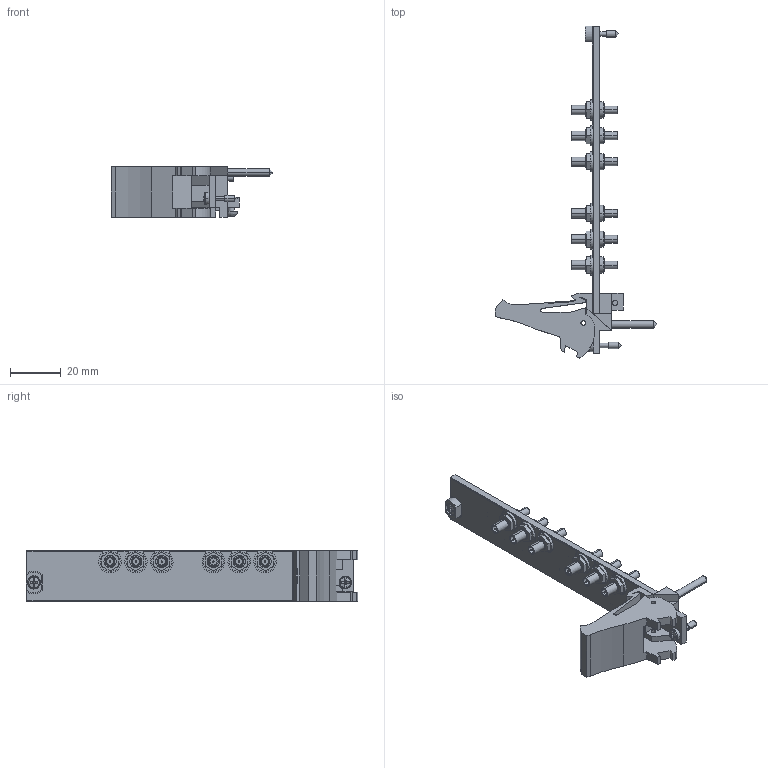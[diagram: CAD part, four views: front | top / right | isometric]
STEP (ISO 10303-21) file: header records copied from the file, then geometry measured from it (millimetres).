
FILE_DESCRIPTION((''),'2;1');
FILE_NAME('CU_PXI-2559','2009-09-16T',('jjorden'),(''),'PRO/ENGINEER BY PARAMETRIC TECHNOLOGY CORPORATION, 2006080','PRO/ENGINEER BY PARAMETRIC TECHNOLOGY CORPORATION, 2006080','');
FILE_SCHEMA(('CONFIG_CONTROL_DESIGN'));
Length unit declared in the file: inch
Products named in the file (1): CU_PXI-2559
Bounding box: 63.53 x 130.5 x 20.02 mm (x, y, z)
Volume: 15591 mm3; surface area: 14907.5 mm2
Topology: 1 solids, 1 shells, 582 faces, 1386 edges, 890 vertices
Faces by surface type: plane 346, cylinder 190, cone 26, sphere 8, torus 6, bspline 6
Entity records: 17265 total; most frequent: CARTESIAN_POINT 3370, DIRECTION 2965, ORIENTED_EDGE 2756, EDGE_CURVE 1378, AXIS2_PLACEMENT_3D 1042, VERTEX_POINT 909, VECTOR 881, LINE 881
